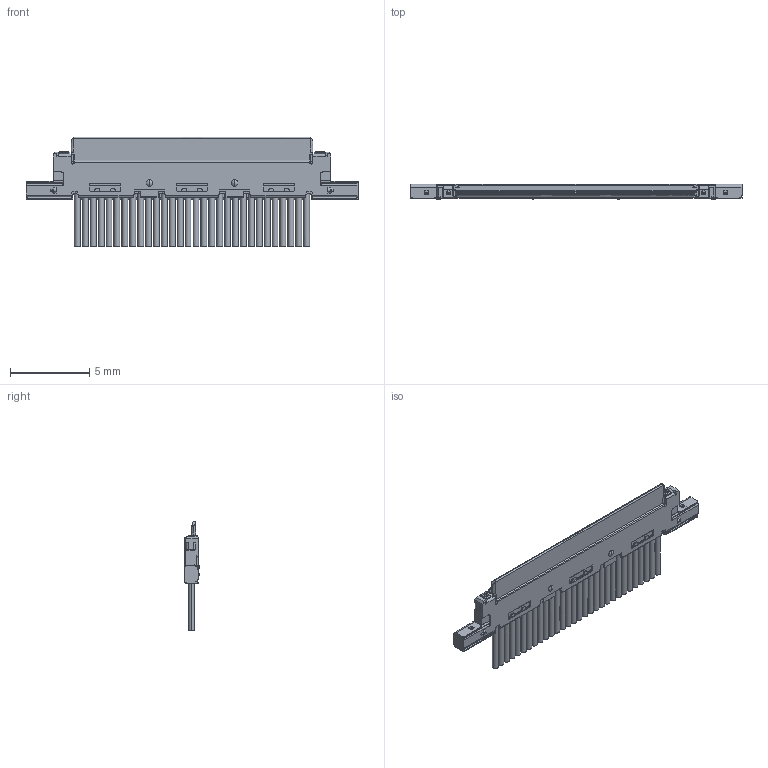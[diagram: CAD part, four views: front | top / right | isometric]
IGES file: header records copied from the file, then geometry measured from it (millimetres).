
Start section: SolidWorks IGES file using analytic representation for surfaces
Global section: file name: C:\3dwork\CAB-VS\20453-030T-x2C PLUG CABLE ASS'Y IGES R8R0R0 ALL.IGS; native system: SolidWorks 2011; preprocessor: SolidWorks 2011; author: kaihatsu-3dcad-2; date: 120124.141451; units: millimetre
Bounding box: 21 x 1 x 6.92 mm (x, y, z)
Surface area: 353.3 mm2 (no closed solid volume)
Topology: 0 solids, 0 shells, 1576 faces, 11434 edges, 11426 vertices
Faces by surface type: bspline 1077, revolution 499
